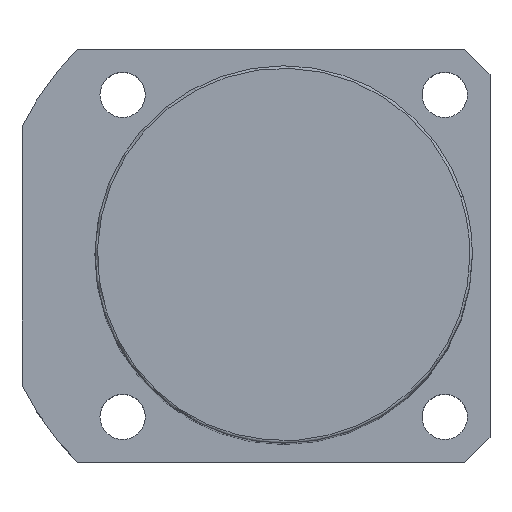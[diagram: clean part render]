
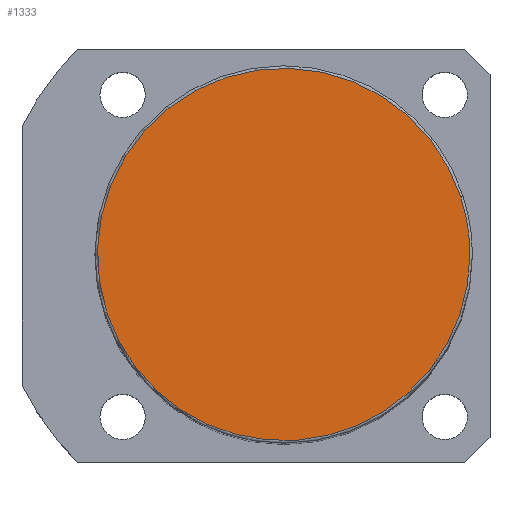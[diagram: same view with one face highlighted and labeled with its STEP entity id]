
A CAD part, top view. The second image highlights one B-rep face of the part: STEP entity #1333.
In plain terms, the highlighted planar face has unit normal (0, 0, 1).
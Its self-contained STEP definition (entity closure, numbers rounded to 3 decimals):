
#1299=CARTESIAN_POINT('',(37.0,0.0,173.0));
#1300=VERTEX_POINT('',#1299);
#1301=CARTESIAN_POINT('',(35.189,11.434,173.0));
#1302=VERTEX_POINT('',#1301);
#1303=CARTESIAN_POINT('',(0.0,0.0,173.0));
#1304=DIRECTION('',(0.0,0.0,1.0));
#1305=DIRECTION('',(1.0,0.0,0.0));
#1306=AXIS2_PLACEMENT_3D('',#1303,#1304,#1305);
#1307=CIRCLE('',#1306,37.0);
#1308=EDGE_CURVE('no 4005',#1300,#1302,#1307,.T.);
#1309=ORIENTED_EDGE('',*,*,#1308,.T.);
#1310=CARTESIAN_POINT('',(-35.189,-11.434,173.0));
#1311=VERTEX_POINT('',#1310);
#1312=CARTESIAN_POINT('',(0.0,0.0,173.0));
#1313=DIRECTION('',(0.0,0.0,1.0));
#1314=DIRECTION('',(1.0,0.0,0.0));
#1315=AXIS2_PLACEMENT_3D('',#1312,#1313,#1314);
#1316=CIRCLE('',#1315,37.0);
#1317=EDGE_CURVE('no 4011',#1302,#1311,#1316,.T.);
#1318=ORIENTED_EDGE('',*,*,#1317,.T.);
#1319=CARTESIAN_POINT('',(0.0,0.0,173.0));
#1320=DIRECTION('',(0.0,0.0,1.0));
#1321=DIRECTION('',(1.0,0.0,0.0));
#1322=AXIS2_PLACEMENT_3D('',#1319,#1320,#1321);
#1323=CIRCLE('',#1322,37.0);
#1324=EDGE_CURVE('no 4015',#1311,#1300,#1323,.T.);
#1325=ORIENTED_EDGE('',*,*,#1324,.T.);
#1326=EDGE_LOOP('',(#1309,#1318,#1325));
#1327=FACE_OUTER_BOUND('',#1326,.T.);
#1328=CARTESIAN_POINT('',(0.0,0.0,173.0));
#1329=DIRECTION('',(0.0,0.0,1.0));
#1330=DIRECTION('',(1.0,0.0,0.0));
#1331=AXIS2_PLACEMENT_3D('',#1328,#1329,#1330);
#1332=PLANE('',#1331);
#1333=ADVANCED_FACE('no 3996',(#1327),#1332,.T.);
